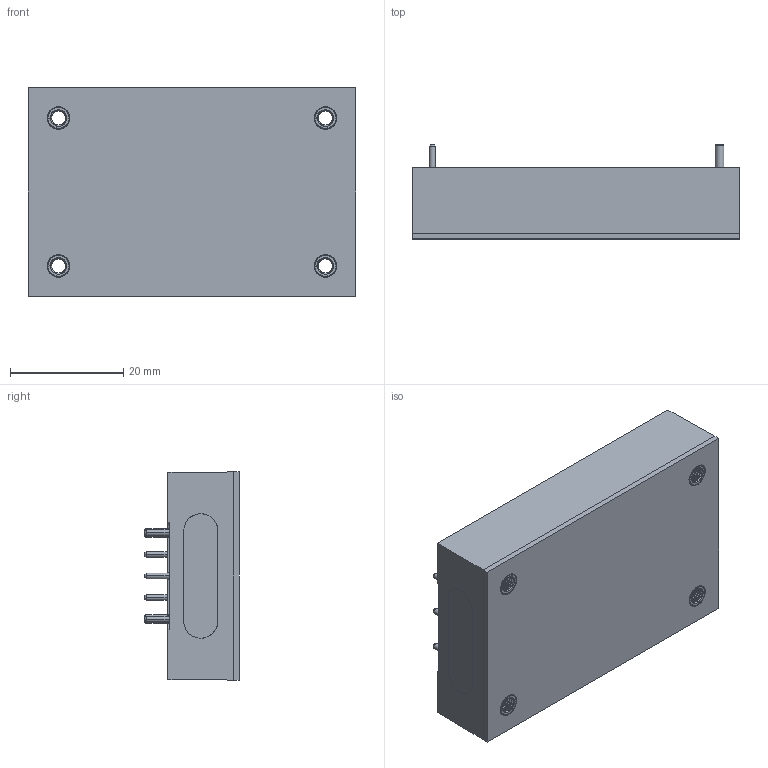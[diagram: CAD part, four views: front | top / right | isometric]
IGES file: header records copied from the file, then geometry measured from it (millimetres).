
Start section: SolidWorks IGES file using analytic representation for surfaces
Global section: file name: C:\Users\ksmith\OneDrive - XP Power\Desktop\Cincon CAD Files to Update\In process\QSB100\Threaded\QSB100 Threaded insert.IGS; native system: SolidWorks 2020; preprocessor: SolidWorks 2020; author: ksmith; date: 210827.134931; units: inch
Bounding box: 57.9 x 16.7 x 36.8 mm (x, y, z)
Surface area: 20607.5 mm2 (no closed solid volume)
Topology: 0 solids, 0 shells, 1075 faces, 13501 edges, 13501 vertices
Faces by surface type: bspline 657, revolution 418
